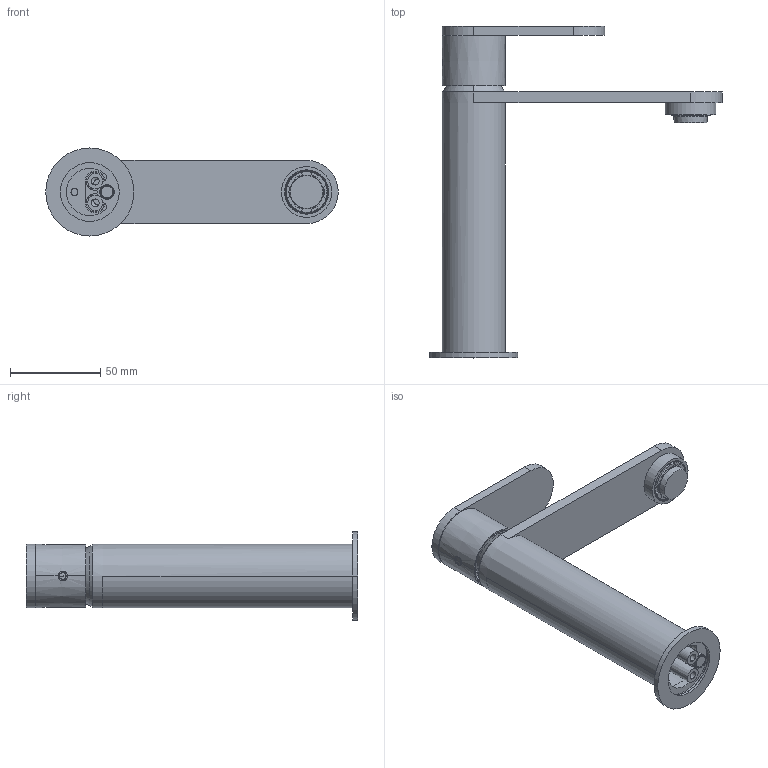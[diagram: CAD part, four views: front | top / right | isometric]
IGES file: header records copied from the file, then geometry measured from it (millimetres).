
Start section:  PTC IGES file: 79050.igs
Global section: file name: 79050.igs; native system: Creo Parametric by PTC Inc.; preprocessor: 2025443; author: carloff; organization: Unknown; date: 20261005.141231; units: millimetre
Bounding box: 161.9 x 183.7 x 48.8 mm (x, y, z)
Surface area: 93939.4 mm2 (no closed solid volume)
Topology: 0 solids, 0 shells, 1300 faces, 6583 edges, 6517 vertices
Faces by surface type: revolution 854, bspline 446
